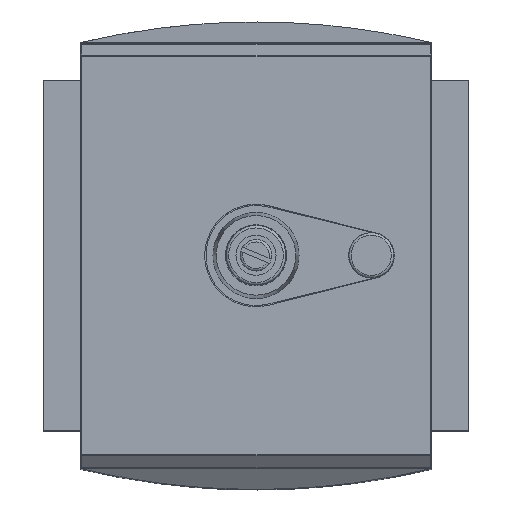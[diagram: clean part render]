
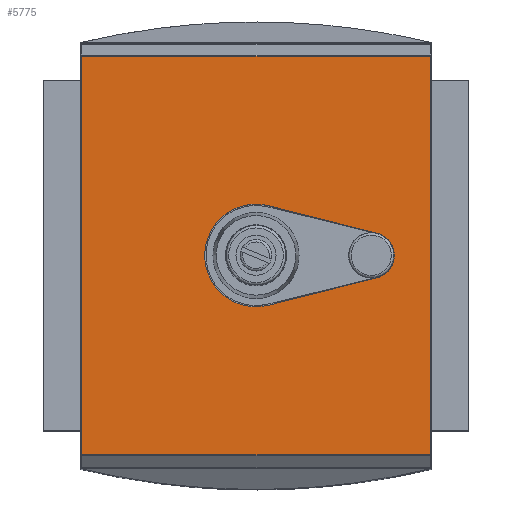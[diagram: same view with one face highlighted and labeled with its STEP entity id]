
A CAD part, top view. The second image highlights one B-rep face of the part: STEP entity #5775.
In plain terms, the highlighted planar face has unit normal (0, 0, 1).
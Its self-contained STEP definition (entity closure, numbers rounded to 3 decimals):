
#5700=CARTESIAN_POINT('',(0.,0.,58.));
#5701=DIRECTION('',(0.0,0.0,1.0));
#5702=DIRECTION('',(-1.0,0.0,0.0));
#5703=AXIS2_PLACEMENT_3D('',#5700,#5701,#5702);
#5704=PLANE('',#5703);
#5705=CARTESIAN_POINT('',(34.8,-39.812,58.));
#5706=VERTEX_POINT('',#5705);
#5707=CARTESIAN_POINT('',(-34.8,-39.812,58.));
#5708=VERTEX_POINT('',#5707);
#5709=CARTESIAN_POINT('',(34.8,-39.812,58.));
#5710=DIRECTION('',(-1.0,0.0,0.0));
#5711=VECTOR('',#5710,69.6);
#5712=LINE('',#5709,#5711);
#5713=EDGE_CURVE('',#5706,#5708,#5712,.T.);
#5714=ORIENTED_EDGE('',*,*,#5713,.F.);
#5715=CARTESIAN_POINT('',(34.8,39.812,58.));
#5716=VERTEX_POINT('',#5715);
#5717=CARTESIAN_POINT('',(34.8,39.812,58.));
#5718=DIRECTION('',(0.0,-1.0,0.0));
#5719=VECTOR('',#5718,79.624);
#5720=LINE('',#5717,#5719);
#5721=EDGE_CURVE('',#5716,#5706,#5720,.T.);
#5722=ORIENTED_EDGE('',*,*,#5721,.F.);
#5723=CARTESIAN_POINT('',(-34.8,39.812,58.));
#5724=VERTEX_POINT('',#5723);
#5725=CARTESIAN_POINT('',(-34.8,39.812,58.));
#5726=DIRECTION('',(1.0,0.0,0.0));
#5727=VECTOR('',#5726,69.6);
#5728=LINE('',#5725,#5727);
#5729=EDGE_CURVE('',#5724,#5716,#5728,.T.);
#5730=ORIENTED_EDGE('',*,*,#5729,.F.);
#5731=CARTESIAN_POINT('',(-34.8,-39.812,58.));
#5732=DIRECTION('',(0.0,1.0,0.0));
#5733=VECTOR('',#5732,79.624);
#5734=LINE('',#5731,#5733);
#5735=EDGE_CURVE('',#5708,#5724,#5734,.T.);
#5736=ORIENTED_EDGE('',*,*,#5735,.F.);
#5737=EDGE_LOOP('',(#5714,#5722,#5730,#5736));
#5738=FACE_OUTER_BOUND('',#5737,.T.);
#5739=CARTESIAN_POINT('',(24.13,4.459,58.));
#5740=VERTEX_POINT('',#5739);
#5741=CARTESIAN_POINT('',(24.13,-4.459,58.));
#5742=VERTEX_POINT('',#5741);
#5743=CARTESIAN_POINT('',(23.,0.,58.));
#5744=DIRECTION('',(0.0,0.0,-1.));
#5745=DIRECTION('',(0.246,-0.969,0.0));
#5746=AXIS2_PLACEMENT_3D('',#5743,#5744,#5745);
#5747=CIRCLE('',#5746,4.6);
#5748=EDGE_CURVE('',#5740,#5742,#5747,.T.);
#5749=ORIENTED_EDGE('',*,*,#5748,.T.);
#5750=CARTESIAN_POINT('',(2.518,-9.936,58.));
#5751=VERTEX_POINT('',#5750);
#5752=CARTESIAN_POINT('',(24.13,-4.459,58.));
#5753=DIRECTION('',(-0.969,-0.246,0.0));
#5754=VECTOR('',#5753,22.295);
#5755=LINE('',#5752,#5754);
#5756=EDGE_CURVE('',#5742,#5751,#5755,.T.);
#5757=ORIENTED_EDGE('',*,*,#5756,.T.);
#5758=CARTESIAN_POINT('',(2.518,9.936,58.));
#5759=VERTEX_POINT('',#5758);
#5760=CARTESIAN_POINT('',(0.,0.,58.));
#5761=DIRECTION('',(0.0,0.0,-1.0));
#5762=DIRECTION('',(0.246,0.969,0.0));
#5763=AXIS2_PLACEMENT_3D('',#5760,#5761,#5762);
#5764=CIRCLE('',#5763,10.25);
#5765=EDGE_CURVE('',#5751,#5759,#5764,.T.);
#5766=ORIENTED_EDGE('',*,*,#5765,.T.);
#5767=CARTESIAN_POINT('',(2.518,9.936,58.));
#5768=DIRECTION('',(0.969,-0.246,0.0));
#5769=VECTOR('',#5768,22.295);
#5770=LINE('',#5767,#5769);
#5771=EDGE_CURVE('',#5759,#5740,#5770,.T.);
#5772=ORIENTED_EDGE('',*,*,#5771,.T.);
#5773=EDGE_LOOP('',(#5749,#5757,#5766,#5772));
#5774=FACE_BOUND('',#5773,.T.);
#5775=ADVANCED_FACE('',(#5738,#5774),#5704,.T.);
